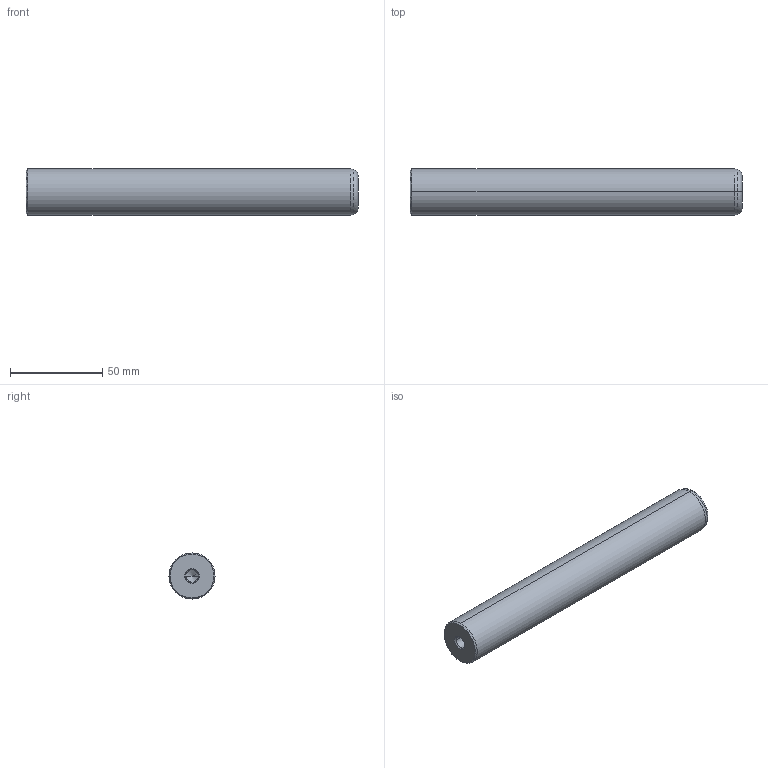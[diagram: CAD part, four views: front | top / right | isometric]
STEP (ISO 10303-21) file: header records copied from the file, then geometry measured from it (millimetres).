
FILE_DESCRIPTION(('CATIA V5 STEP Exchange'),'2;1');
FILE_NAME('C:\Users\Utente\Desktop\IO LAVORO\3D X SITO CF\X SITO\720\720-25x180.stp','2021-01-01T12:42:32+00:00',('none'),('none'),'CATIA Version 5 Release 20 GA (IN-10)','CATIA V5 STEP AP203','none');
FILE_SCHEMA(('CONFIG_CONTROL_DESIGN'));
Length unit declared in the file: millimetre
Products named in the file (1): 720-25x180
Bounding box: 180 x 25 x 25 mm (x, y, z)
Volume: 86380.6 mm3; surface area: 15947.8 mm2
Topology: 1 solids, 1 shells, 22 faces, 56 edges, 34 vertices
Faces by surface type: cone 12, cylinder 6, plane 2, torus 2
Entity records: 755 total; most frequent: CARTESIAN_POINT 216, ORIENTED_EDGE 104, DIRECTION 89, EDGE_CURVE 52, AXIS2_PLACEMENT_3D 50, VERTEX_POINT 34, CIRCLE 27, EDGE_LOOP 24
